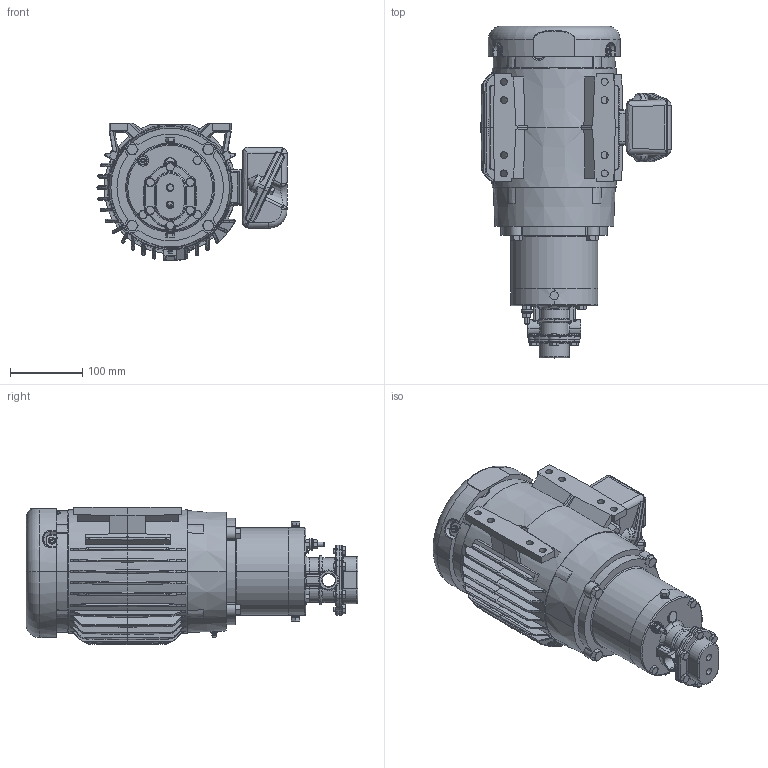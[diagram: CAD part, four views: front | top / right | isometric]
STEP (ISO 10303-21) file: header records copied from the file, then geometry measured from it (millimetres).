
FILE_DESCRIPTION (( 'STEP AP214' ), '1' );
FILE_NAME ('E05M FNPT 143-5TC.STEP', '2025-03-05T15:10:59', ( '' ), ( '' ), 'SwSTEP 2.0', 'SolidWorks 2021', '' );
FILE_SCHEMA (( 'AUTOMOTIVE_DESIGN' ));
Length unit declared in the file: inch
Products named in the file (1): E05M FNPT 143-5TC
Bounding box: 263.32 x 459.6 x 190.11 mm (x, y, z)
Volume: 7932401.1 mm3; surface area: 726420.1 mm2
Topology: 29 solids, 29 shells, 3371 faces, 8899 edges, 5642 vertices
Faces by surface type: plane 1188, cylinder 1183, cone 418, torus 314, bspline 164, sphere 104
Entity records: 166363 total; most frequent: CARTESIAN_POINT 40273, ORIENTED_EDGE 17626, DIRECTION 16947, EDGE_CURVE 8813, AXIS2_PLACEMENT_3D 6671, VERTEX_POINT 5638, EDGE_LOOP 3661, LINE 3605
